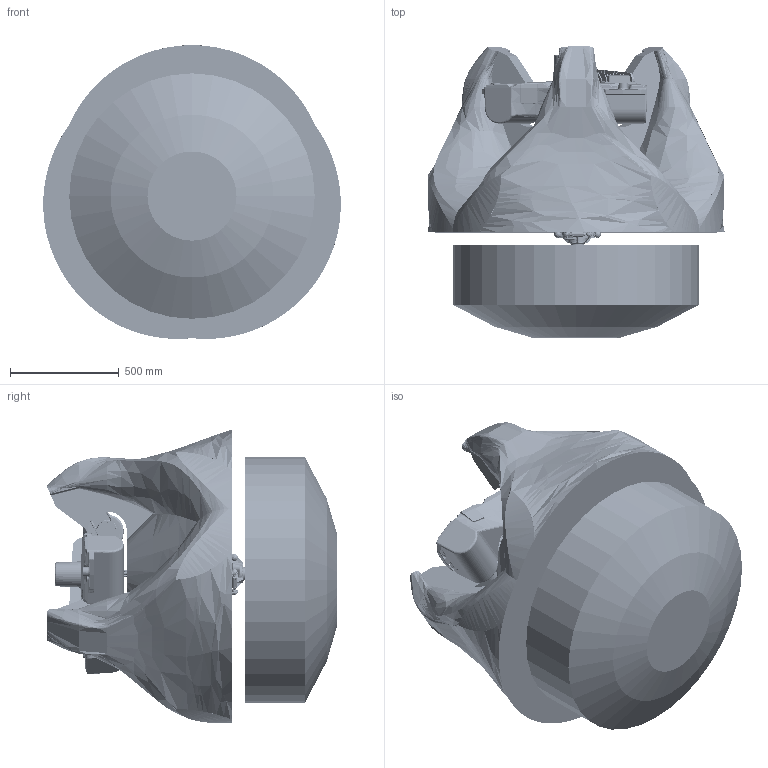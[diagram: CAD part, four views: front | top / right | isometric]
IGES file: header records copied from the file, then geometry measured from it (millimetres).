
Start section: SolidWorks IGES file using analytic representation for surfaces
Global section: file name: C:\Working\17000-400_Hornet565.IGS; native system: SolidWorks 2015; preprocessor: SolidWorks 2015; author: dann; date: 150505.145103; units: millimetre
Bounding box: 1369.88 x 1339.67 x 1352.5 mm (x, y, z)
Surface area: 10791115.6 mm2 (no closed solid volume)
Topology: 0 solids, 0 shells, 4752 faces, 64161 edges, 64006 vertices
Faces by surface type: bspline 2511, revolution 2241
